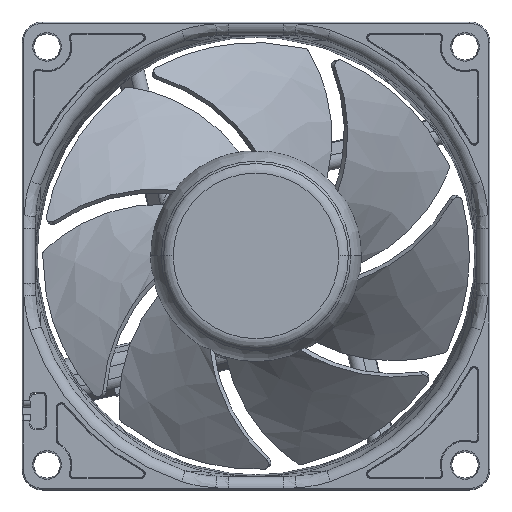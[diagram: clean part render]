
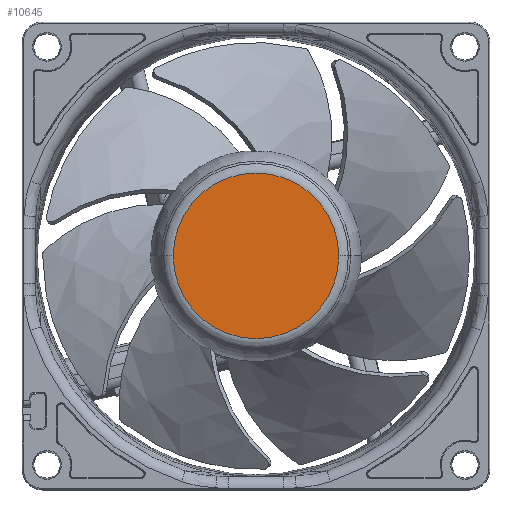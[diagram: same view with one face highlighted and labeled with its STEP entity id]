
A CAD part, top view. The second image highlights one B-rep face of the part: STEP entity #10645.
In plain terms, the highlighted planar face has unit normal (0, 0, 1).
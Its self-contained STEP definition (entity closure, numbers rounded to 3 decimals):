
#1577 = EDGE_LOOP ( 'NONE', ( #6198, #8937 ) ) ;
#2658 = CARTESIAN_POINT ( 'NONE',  ( 14.159, 0., 24.5 ) ) ;
#3497 = EDGE_CURVE ( 'NONE', #6399, #11502, #10100, .T. ) ;
#3939 = AXIS2_PLACEMENT_3D ( 'NONE', #24137, #11404, #26285 ) ;
#5452 = PLANE ( 'NONE',  #6798 ) ;
#5561 = DIRECTION ( 'NONE',  ( 0., 0., 1. ) ) ;
#6198 = ORIENTED_EDGE ( 'NONE', *, *, #14288, .T. ) ;
#6399 = VERTEX_POINT ( 'NONE', #26652 ) ;
#6798 = AXIS2_PLACEMENT_3D ( 'NONE', #26708, #5561, #20398 ) ;
#8937 = ORIENTED_EDGE ( 'NONE', *, *, #3497, .T. ) ;
#10100 = CIRCLE ( 'NONE', #17327, 14.159 ) ;
#10645 = ADVANCED_FACE ( 'NONE', ( #19812 ), #5452, .T. ) ;
#11404 = DIRECTION ( 'NONE',  ( 0., 0., 1. ) ) ;
#11502 = VERTEX_POINT ( 'NONE', #2658 ) ;
#11625 = CARTESIAN_POINT ( 'NONE',  ( 0., 0., 24.5 ) ) ;
#13745 = DIRECTION ( 'NONE',  ( 1., 0., 0. ) ) ;
#14288 = EDGE_CURVE ( 'NONE', #11502, #6399, #14531, .T. ) ;
#14531 = CIRCLE ( 'NONE', #3939, 14.159 ) ;
#17327 = AXIS2_PLACEMENT_3D ( 'NONE', #11625, #26497, #13745 ) ;
#19812 = FACE_OUTER_BOUND ( 'NONE', #1577, .T. ) ;
#20398 = DIRECTION ( 'NONE',  ( 1., 0., 0. ) ) ;
#24137 = CARTESIAN_POINT ( 'NONE',  ( 0., 0., 24.5 ) ) ;
#26285 = DIRECTION ( 'NONE',  ( 1., 0., 0. ) ) ;
#26497 = DIRECTION ( 'NONE',  ( 0., 0., 1. ) ) ;
#26652 = CARTESIAN_POINT ( 'NONE',  ( -14.159, 0., 24.5 ) ) ;
#26708 = CARTESIAN_POINT ( 'NONE',  ( 0., 15.2, 24.5 ) ) ;
